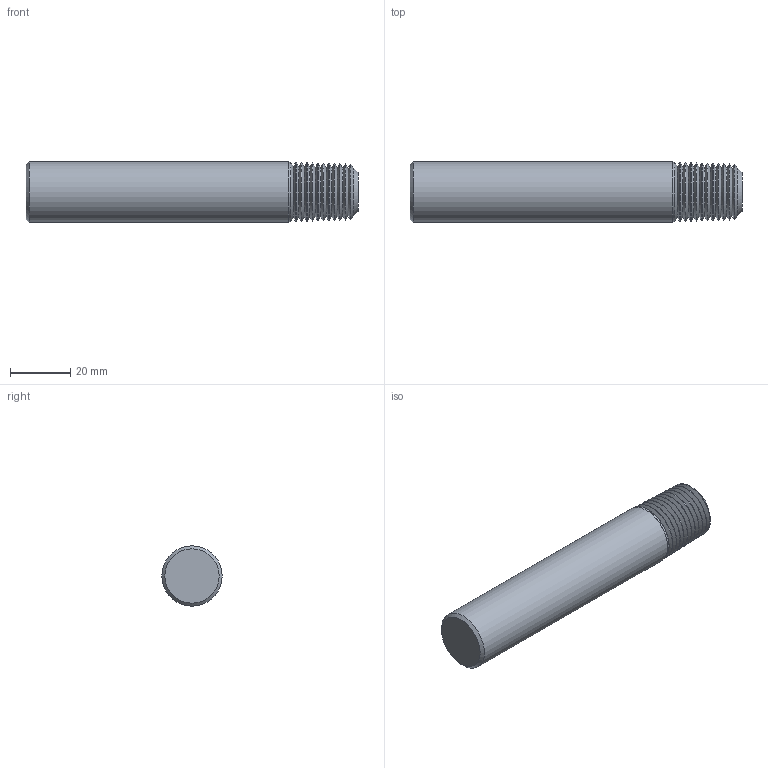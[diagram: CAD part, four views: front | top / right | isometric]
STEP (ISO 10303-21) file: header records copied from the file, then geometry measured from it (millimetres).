
FILE_DESCRIPTION(/* description */ (''),/* implementation_level */ '2;1');
FILE_NAME(/* name */ '171612-00036543-TDM',/* time_stamp */ '2024-02-21T13:20:30+01:00',/* author */ (''),/* organization */ (''),/* preprocessor_version */ 'ST-DEVELOPER v16.5',/* originating_system */ 'HiCAD 2017 2201.0 Build 268',/* authorisation */ '');
FILE_SCHEMA (('AUTOMOTIVE_DESIGN { 1 0 10303 214 1 1 1 1 }'));
Length unit declared in the file: millimetre
Products named in the file (3): Root; ROTATIONSTEIL_0
Assembly tree (2 placements, depth 3):
  Root
    ROTATIONSTEIL_0
      ROTATIONSTEIL_0
Bounding box: 110 x 20 x 20 mm (x, y, z)
Volume: 32871.2 mm3; surface area: 8630.9 mm2
Topology: 2 solids, 2 shells, 57 faces, 110 edges, 57 vertices
Faces by surface type: cone 27, torus 24, plane 4, cylinder 2
Full cylindrical faces by diameter (mm): 19.746 x1, 20 x1
Entity records: 1734 total; most frequent: DIRECTION 232, CARTESIAN_POINT 171, AXIS2_PLACEMENT_3D 116, PRESENTATION_STYLE_ASSIGNMENT 112, COLOUR_RGB 112, DRAUGHTING_PRE_DEFINED_CURVE_FONT 110, CURVE_STYLE 110, OVER_RIDING_STYLED_ITEM 110
